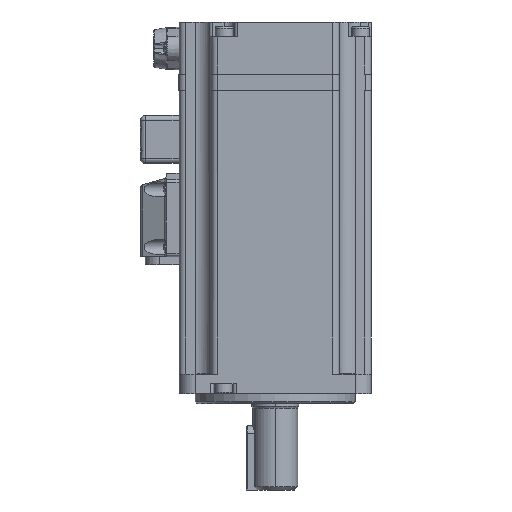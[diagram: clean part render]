
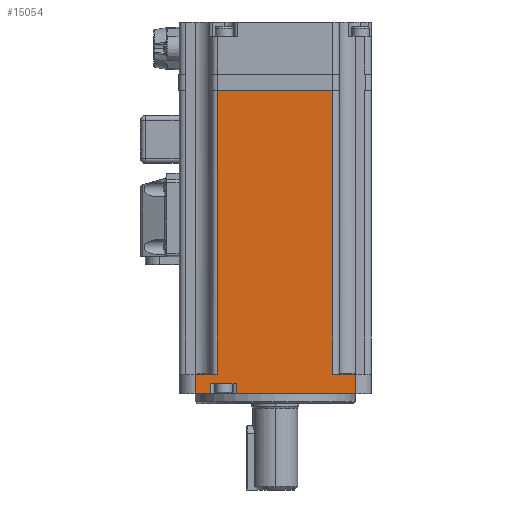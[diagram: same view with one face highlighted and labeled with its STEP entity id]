
A CAD part, left-side view. The second image highlights one B-rep face of the part: STEP entity #15054.
In plain terms, the highlighted planar face has unit normal (-1, 0, 0).
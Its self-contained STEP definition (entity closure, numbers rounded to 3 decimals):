
#3387=DIRECTION('',(0.,1.,0.));
#3388=VECTOR('',#3387,7.);
#3389=CARTESIAN_POINT('',(-30.,-25.,-0.2));
#3390=LINE('',#3389,#3388);
#3401=DIRECTION('',(0.,0.,1.));
#3402=VECTOR('',#3401,88.7);
#3403=CARTESIAN_POINT('',(-30.,-18.,-0.2));
#3404=LINE('',#3403,#3402);
#3405=DIRECTION('',(0.,0.,1.));
#3406=VECTOR('',#3405,88.7);
#3407=CARTESIAN_POINT('',(-30.,18.,-0.2));
#3408=LINE('',#3407,#3406);
#3409=DIRECTION('',(0.,0.,-1.));
#3410=VECTOR('',#3409,6.2);
#3411=CARTESIAN_POINT('',(-30.,-25.,-0.2));
#3412=LINE('',#3411,#3410);
#3413=DIRECTION('',(0.,1.,0.));
#3414=VECTOR('',#3413,37.224);
#3415=CARTESIAN_POINT('',(-30.,-25.,-6.4));
#3416=LINE('',#3415,#3414);
#3417=DIRECTION('',(0.,1.,0.));
#3418=VECTOR('',#3417,4.776);
#3419=CARTESIAN_POINT('',(-30.,20.224,-6.4));
#3420=LINE('',#3419,#3418);
#3474=DIRECTION('',(0.,1.,0.));
#3475=VECTOR('',#3474,7.);
#3476=CARTESIAN_POINT('',(-30.,18.,-0.2));
#3477=LINE('',#3476,#3475);
#3597=DIRECTION('',(0.,-1.,0.));
#3598=VECTOR('',#3597,36.);
#3599=CARTESIAN_POINT('',(-30.,18.,88.5));
#3600=LINE('',#3599,#3598);
#6621=DIRECTION('',(0.,0.,-1.));
#6622=VECTOR('',#6621,6.2);
#6623=CARTESIAN_POINT('',(-30.,25.,-0.2));
#6624=LINE('',#6623,#6622);
#7062=DIRECTION('',(0.,0.,1.));
#7063=VECTOR('',#7062,3.15);
#7064=CARTESIAN_POINT('',(-30.,20.224,-6.4));
#7065=LINE('',#7064,#7063);
#7085=DIRECTION('',(0.,-1.,0.));
#7086=VECTOR('',#7085,8.);
#7087=CARTESIAN_POINT('',(-30.,20.224,-3.25));
#7088=LINE('',#7087,#7086);
#7353=DIRECTION('',(0.,0.,-1.));
#7354=VECTOR('',#7353,3.15);
#7355=CARTESIAN_POINT('',(-30.,12.224,-3.25));
#7356=LINE('',#7355,#7354);
#10281=CARTESIAN_POINT('',(-30.,25.,-6.4));
#10283=VERTEX_POINT('',#10281);
#10284=CARTESIAN_POINT('',(-30.,20.224,-6.4));
#10286=VERTEX_POINT('',#10284);
#10293=CARTESIAN_POINT('',(-30.,12.224,-6.4));
#10295=VERTEX_POINT('',#10293);
#10296=CARTESIAN_POINT('',(-30.,-25.,-6.4));
#10298=VERTEX_POINT('',#10296);
#10358=CARTESIAN_POINT('',(-30.,-25.,-0.2));
#10359=VERTEX_POINT('',#10358);
#10362=CARTESIAN_POINT('',(-30.,25.,-0.2));
#10363=VERTEX_POINT('',#10362);
#10373=CARTESIAN_POINT('',(-30.,18.,-0.2));
#10375=VERTEX_POINT('',#10373);
#10412=CARTESIAN_POINT('',(-30.,-18.,-0.2));
#10414=VERTEX_POINT('',#10412);
#10493=CARTESIAN_POINT('',(-30.,20.224,-3.25));
#10495=VERTEX_POINT('',#10493);
#10496=CARTESIAN_POINT('',(-30.,12.224,-3.25));
#10497=VERTEX_POINT('',#10496);
#10794=CARTESIAN_POINT('',(-30.,18.,88.5));
#10795=VERTEX_POINT('',#10794);
#10796=CARTESIAN_POINT('',(-30.,-18.,88.5));
#10797=VERTEX_POINT('',#10796);
#15025=CARTESIAN_POINT('',(-30.,0.,-3.2));
#15026=DIRECTION('',(1.,0.,0.));
#15027=DIRECTION('',(0.,-1.,0.));
#15028=AXIS2_PLACEMENT_3D('',#15025,#15026,#15027);
#15029=PLANE('',#15028);
#15031=ORIENTED_EDGE('',*,*,#15030,.T.);
#15033=ORIENTED_EDGE('',*,*,#15032,.T.);
#15034=ORIENTED_EDGE('',*,*,#15013,.F.);
#15035=ORIENTED_EDGE('',*,*,#14997,.F.);
#15037=ORIENTED_EDGE('',*,*,#15036,.T.);
#15039=ORIENTED_EDGE('',*,*,#15038,.T.);
#15041=ORIENTED_EDGE('',*,*,#15040,.F.);
#15043=ORIENTED_EDGE('',*,*,#15042,.F.);
#15045=ORIENTED_EDGE('',*,*,#15044,.F.);
#15047=ORIENTED_EDGE('',*,*,#15046,.T.);
#15049=ORIENTED_EDGE('',*,*,#15048,.F.);
#15051=ORIENTED_EDGE('',*,*,#15050,.F.);
#15052=EDGE_LOOP('',(#15031,#15033,#15034,#15035,#15037,#15039,#15041,#15043,
#15045,#15047,#15049,#15051));
#15053=FACE_OUTER_BOUND('',#15052,.F.);
#15054=ADVANCED_FACE('',(#15053),#15029,.F.);
#14997=EDGE_CURVE('',#10359,#10414,#3390,.T.);
#15013=EDGE_CURVE('',#10414,#10797,#3404,.T.);
#15030=EDGE_CURVE('',#10375,#10795,#3408,.T.);
#15032=EDGE_CURVE('',#10795,#10797,#3600,.T.);
#15036=EDGE_CURVE('',#10359,#10298,#3412,.T.);
#15038=EDGE_CURVE('',#10298,#10295,#3416,.T.);
#15040=EDGE_CURVE('',#10497,#10295,#7356,.T.);
#15042=EDGE_CURVE('',#10495,#10497,#7088,.T.);
#15044=EDGE_CURVE('',#10286,#10495,#7065,.T.);
#15046=EDGE_CURVE('',#10286,#10283,#3420,.T.);
#15048=EDGE_CURVE('',#10363,#10283,#6624,.T.);
#15050=EDGE_CURVE('',#10375,#10363,#3477,.T.);
